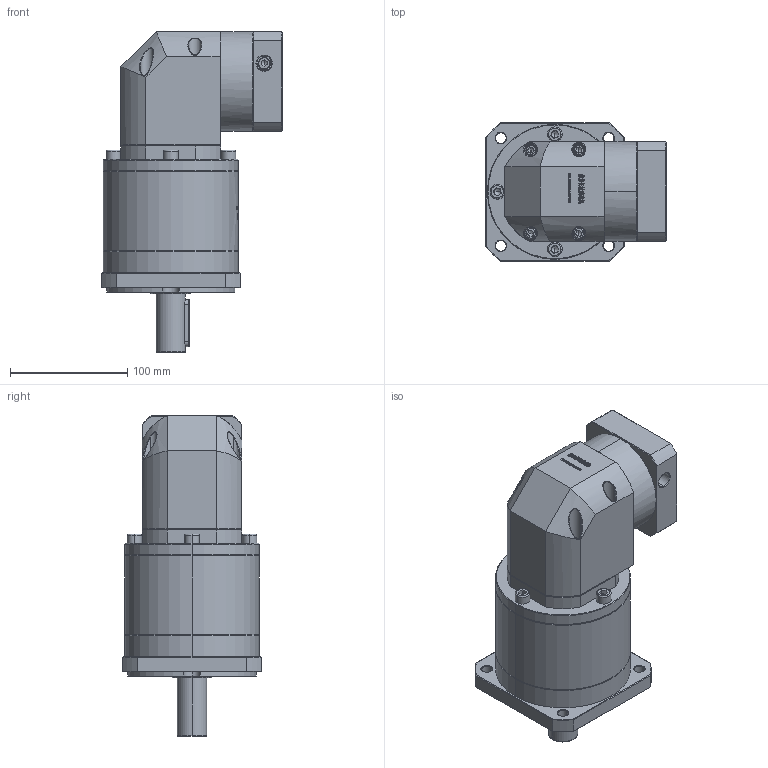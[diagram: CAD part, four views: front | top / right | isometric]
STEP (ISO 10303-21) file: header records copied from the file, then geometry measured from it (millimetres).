
FILE_DESCRIPTION (( 'STEP AP214' ), '1' );
FILE_NAME ('ZFR120A-D25-L3-19-70-90-M5.step', '2023-03-08T05:47:17', ( '' ), ( '' ), 'SwSTEP 2.0', 'SolidWorks 2016', '' );
FILE_SCHEMA (( 'AUTOMOTIVE_DESIGN' ));
Length unit declared in the file: millimetre
Products named in the file (1): ZFR120A-D25-L3-19-70-90-M5
Bounding box: 154.1 x 118 x 273.5 mm (x, y, z)
Volume: 2151420.4 mm3; surface area: 180277.8 mm2
Topology: 6 solids, 6 shells, 2999 faces, 7963 edges, 5110 vertices
Faces by surface type: plane 1578, bspline 625, cylinder 453, cone 329, torus 14
Entity records: 163636 total; most frequent: CARTESIAN_POINT 62166, ORIENTED_EDGE 15834, DIRECTION 11661, EDGE_CURVE 7917, VERTEX_POINT 5110, VECTOR 4929, LINE 4929, AXIS2_PLACEMENT_3D 3366
